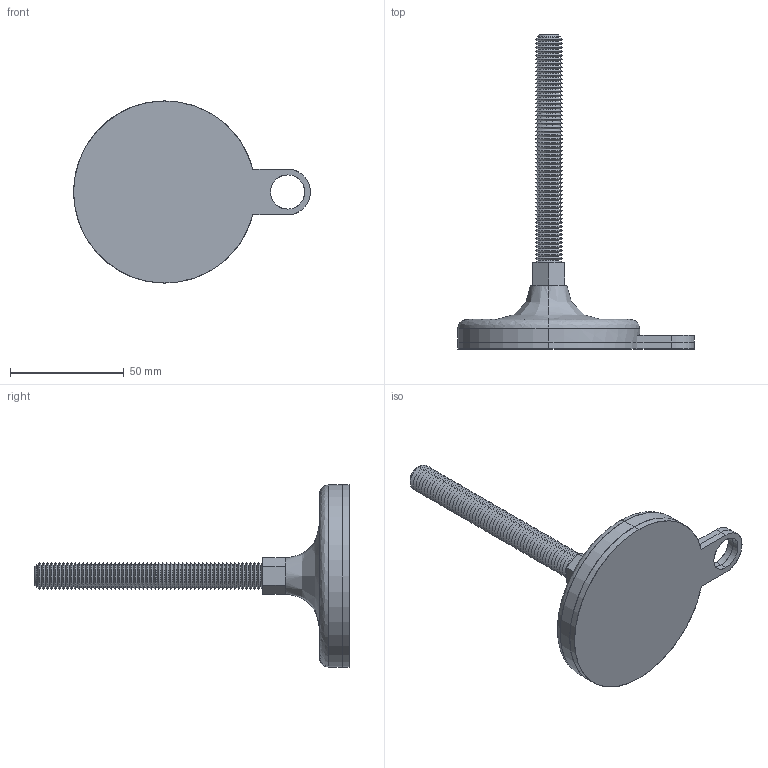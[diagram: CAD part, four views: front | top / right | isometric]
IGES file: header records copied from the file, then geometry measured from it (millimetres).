
Start section: SolidWorks IGES file using analytic representation for surfaces
Global section: file name: C:\Users\liam_\OneDrive\Documents\WORK\Work for WixRoyd\Job Files\J-00026 - Matt Davis CAD - 20191124\04. CAD Drawings\Wixroyd20191124\34704_v2\34704_v2_20191128_IGES\34704.W1201.igs; native system: SolidWorks 2017; preprocessor: SolidWorks 2017; author: liam_; date: 191128.202326; units: millimetre
Bounding box: 104 x 138 x 80 mm (x, y, z)
Surface area: 32068.4 mm2 (no closed solid volume)
Topology: 0 solids, 0 shells, 274 faces, 1716 edges, 1716 vertices
Faces by surface type: revolution 241, bspline 33
